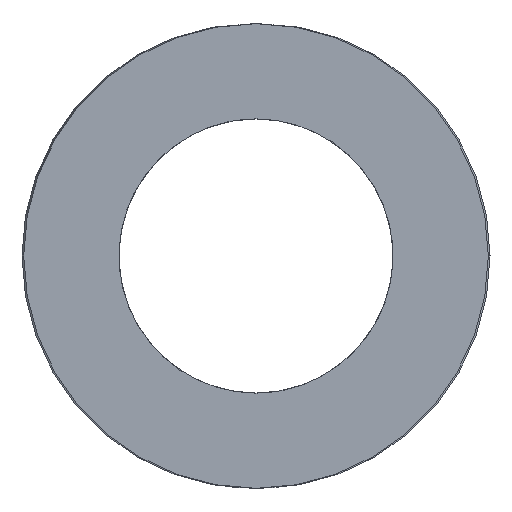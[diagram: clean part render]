
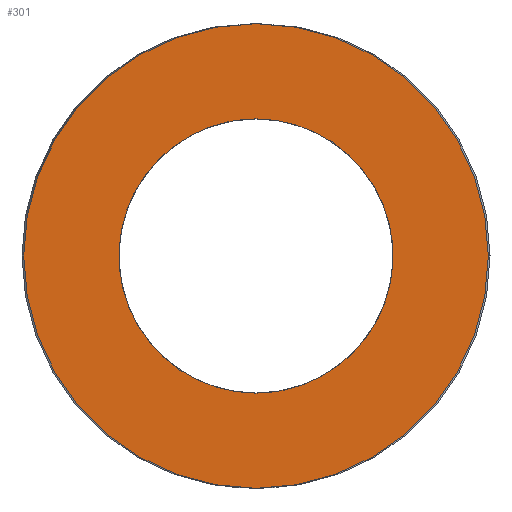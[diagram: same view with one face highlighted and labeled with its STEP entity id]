
A CAD part, left-side view. The second image highlights one B-rep face of the part: STEP entity #301.
In plain terms, the highlighted planar face has unit normal (-1, 0, 0).
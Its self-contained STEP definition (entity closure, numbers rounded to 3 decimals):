
#63=CARTESIAN_POINT('Vertex',(0.,6.1,0.)) ;
#77=CARTESIAN_POINT('Vertex',(0.,-6.1,0.)) ;
#80=CARTESIAN_POINT('Axis2P3D Location',(0.,0.,0.)) ;
#97=CARTESIAN_POINT('Axis2P3D Location',(0.,0.,0.)) ;
#232=CARTESIAN_POINT('Axis2P3D Location',(0.,3.05,0.)) ;
#242=CARTESIAN_POINT('Control Point',(0.,0.,-3.6)) ;
#243=CARTESIAN_POINT('Control Point',(0.,0.372,-3.6)) ;
#244=CARTESIAN_POINT('Control Point',(0.,0.744,-3.552)) ;
#245=CARTESIAN_POINT('Control Point',(0.,1.107,-3.456)) ;
#246=CARTESIAN_POINT('Control Point',(0.,1.801,-3.172)) ;
#247=CARTESIAN_POINT('Control Point',(0.,2.4,-2.722)) ;
#248=CARTESIAN_POINT('Control Point',(0.,2.669,-2.459)) ;
#249=CARTESIAN_POINT('Control Point',(0.,3.133,-1.869)) ;
#250=CARTESIAN_POINT('Control Point',(0.,3.431,-1.182)) ;
#251=CARTESIAN_POINT('Control Point',(0.,3.535,-0.82)) ;
#252=CARTESIAN_POINT('Control Point',(0.,3.647,-0.079)) ;
#253=CARTESIAN_POINT('Control Point',(0.,3.567,0.667)) ;
#254=CARTESIAN_POINT('Control Point',(0.,3.479,1.032)) ;
#255=CARTESIAN_POINT('Control Point',(0.,3.21,1.732)) ;
#256=CARTESIAN_POINT('Control Point',(0.,2.773,2.341)) ;
#257=CARTESIAN_POINT('Control Point',(0.,2.516,2.615)) ;
#258=CARTESIAN_POINT('Control Point',(0.,1.937,3.092)) ;
#259=CARTESIAN_POINT('Control Point',(0.,1.255,3.405)) ;
#260=CARTESIAN_POINT('Control Point',(0.,0.896,3.517)) ;
#261=CARTESIAN_POINT('Control Point',(0.,0.496,3.586)) ;
#262=CARTESIAN_POINT('Control Point',(0.,0.093,3.599)) ;
#263=CARTESIAN_POINT('Control Point',(0.,0.062,3.6)) ;
#264=CARTESIAN_POINT('Control Point',(0.,0.031,3.6)) ;
#265=CARTESIAN_POINT('Control Point',(0.,0.,3.6)) ;
#266=CARTESIAN_POINT('Vertex',(0.,0.,-3.6)) ;
#268=CARTESIAN_POINT('Vertex',(0.,0.,3.6)) ;
#272=CARTESIAN_POINT('Control Point',(0.,0.,3.6)) ;
#273=CARTESIAN_POINT('Control Point',(0.,-0.372,3.6)) ;
#274=CARTESIAN_POINT('Control Point',(0.,-0.744,3.552)) ;
#275=CARTESIAN_POINT('Control Point',(0.,-1.107,3.456)) ;
#276=CARTESIAN_POINT('Control Point',(0.,-1.801,3.172)) ;
#277=CARTESIAN_POINT('Control Point',(0.,-2.4,2.722)) ;
#278=CARTESIAN_POINT('Control Point',(0.,-2.669,2.459)) ;
#279=CARTESIAN_POINT('Control Point',(0.,-3.133,1.869)) ;
#280=CARTESIAN_POINT('Control Point',(0.,-3.431,1.182)) ;
#281=CARTESIAN_POINT('Control Point',(0.,-3.535,0.82)) ;
#282=CARTESIAN_POINT('Control Point',(0.,-3.647,0.079)) ;
#283=CARTESIAN_POINT('Control Point',(0.,-3.567,-0.667)) ;
#284=CARTESIAN_POINT('Control Point',(0.,-3.479,-1.032)) ;
#285=CARTESIAN_POINT('Control Point',(0.,-3.21,-1.732)) ;
#286=CARTESIAN_POINT('Control Point',(0.,-2.773,-2.341)) ;
#287=CARTESIAN_POINT('Control Point',(0.,-2.516,-2.615)) ;
#288=CARTESIAN_POINT('Control Point',(0.,-1.937,-3.092)) ;
#289=CARTESIAN_POINT('Control Point',(0.,-1.255,-3.405)) ;
#290=CARTESIAN_POINT('Control Point',(0.,-0.896,-3.517)) ;
#291=CARTESIAN_POINT('Control Point',(0.,-0.496,-3.586)) ;
#292=CARTESIAN_POINT('Control Point',(0.,-0.093,-3.599)) ;
#293=CARTESIAN_POINT('Control Point',(0.,-0.062,-3.6)) ;
#294=CARTESIAN_POINT('Control Point',(0.,-0.031,-3.6)) ;
#295=CARTESIAN_POINT('Control Point',(0.,0.,-3.6)) ;
#81=DIRECTION('Axis2P3D Direction',(1.,-0.,0.)) ;
#98=DIRECTION('Axis2P3D Direction',(1.,-0.,0.)) ;
#233=DIRECTION('Axis2P3D Direction',(-1.,0.,0.)) ;
#234=DIRECTION('Axis2P3D XDirection',(0.,1.,0.)) ;
#82=AXIS2_PLACEMENT_3D('Circle Axis2P3D',#80,#81,$) ;
#99=AXIS2_PLACEMENT_3D('Circle Axis2P3D',#97,#98,$) ;
#235=AXIS2_PLACEMENT_3D('Plane Axis2P3D',#232,#233,#234) ;
#238=ORIENTED_EDGE('',*,*,#84,.T.) ;
#239=ORIENTED_EDGE('',*,*,#101,.T.) ;
#298=ORIENTED_EDGE('',*,*,#270,.T.) ;
#299=ORIENTED_EDGE('',*,*,#296,.T.) ;
#300=FACE_BOUND('',#297,.T.) ;
#301=ADVANCED_FACE('392-B13-076',(#240,#300),#236,.T.) ;
#241=B_SPLINE_CURVE_WITH_KNOTS('',5,(#242,#243,#244,#245,#246,#247,#248,#249,#250,#251,#252,#253,#254,#255,#256,#257,#258,#259,#260,#261,#262,#263,#264,#265),.UNSPECIFIED.,.F.,.U.,(6,3,3,3,3,3,3,6),(0.,2.629,5.258,7.887,10.516,13.145,15.774,15.994),.UNSPECIFIED.) ;
#271=B_SPLINE_CURVE_WITH_KNOTS('',5,(#272,#273,#274,#275,#276,#277,#278,#279,#280,#281,#282,#283,#284,#285,#286,#287,#288,#289,#290,#291,#292,#293,#294,#295),.UNSPECIFIED.,.F.,.U.,(6,3,3,3,3,3,3,6),(0.,2.629,5.258,7.887,10.516,13.145,15.774,15.994),.UNSPECIFIED.) ;
#83=CIRCLE('generated circle',#82,6.1) ;
#100=CIRCLE('generated circle',#99,6.1) ;
#84=EDGE_CURVE('',#64,#78,#83,.F.) ;
#101=EDGE_CURVE('',#78,#64,#100,.F.) ;
#270=EDGE_CURVE('',#267,#269,#241,.T.) ;
#296=EDGE_CURVE('',#269,#267,#271,.T.) ;
#237=EDGE_LOOP('',(#238,#239)) ;
#297=EDGE_LOOP('',(#298,#299)) ;
#240=FACE_OUTER_BOUND('',#237,.T.) ;
#236=PLANE('Plane',#235) ;
#64=VERTEX_POINT('',#63) ;
#78=VERTEX_POINT('',#77) ;
#267=VERTEX_POINT('',#266) ;
#269=VERTEX_POINT('',#268) ;
